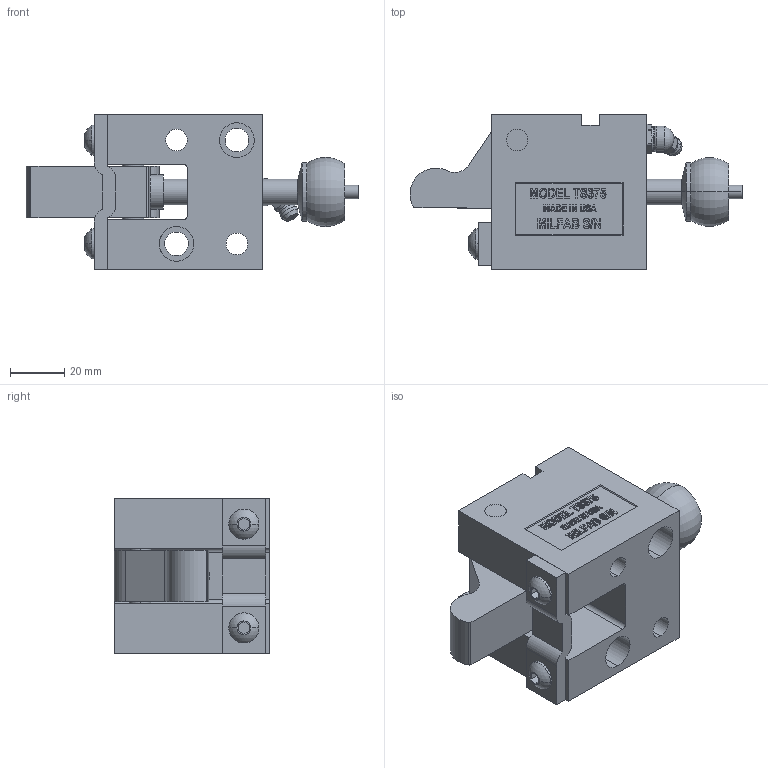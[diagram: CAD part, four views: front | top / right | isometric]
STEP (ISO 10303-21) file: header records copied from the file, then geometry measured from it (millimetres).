
FILE_DESCRIPTION (( 'STEP AP214' ), '1' );
FILE_NAME ('TS37545-C.STEP', '2014-01-05T21:08:48', ( 'user' ), ( '' ), 'SwSTEP 2.0', 'SolidWorks 2009', '' );
FILE_SCHEMA (( 'AUTOMOTIVE_DESIGN' ));
Length unit declared in the file: inch
Products named in the file (11): 375 PIVOT PIN; GREASE ZERK; 375-OFFSET TRIGGER; 375-I-STRAP; 1-4 SCREW; I-375-POINT; TS375-BODY; 375-WASHER; 375 STRIPPER CLOSED; S375-PUNCH; TS37545-C
Assembly tree (11 placements, depth 2):
  TS37545-C
    375-WASHER
    TS375-BODY
    1-4 SCREW  x2
    GREASE ZERK
    I-375-POINT
    S375-PUNCH
    375 STRIPPER CLOSED
    375-OFFSET TRIGGER
    375 PIVOT PIN
    375-I-STRAP
Bounding box: 121.9 x 57.15 x 57.15 mm (x, y, z)
Volume: 166761.3 mm3; surface area: 46950.6 mm2
Topology: 11 solids, 11 shells, 580 faces, 1502 edges, 986 vertices
Faces by surface type: plane 335, bspline 99, cylinder 90, cone 30, torus 22, sphere 4
Entity records: 23187 total; most frequent: CARTESIAN_POINT 9550, ORIENTED_EDGE 2916, DIRECTION 2346, EDGE_CURVE 1458, VERTEX_POINT 960, VECTOR 956, LINE 956, AXIS2_PLACEMENT_3D 695
